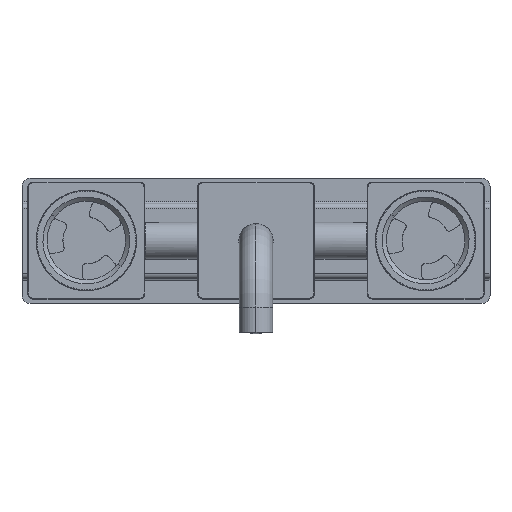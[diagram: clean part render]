
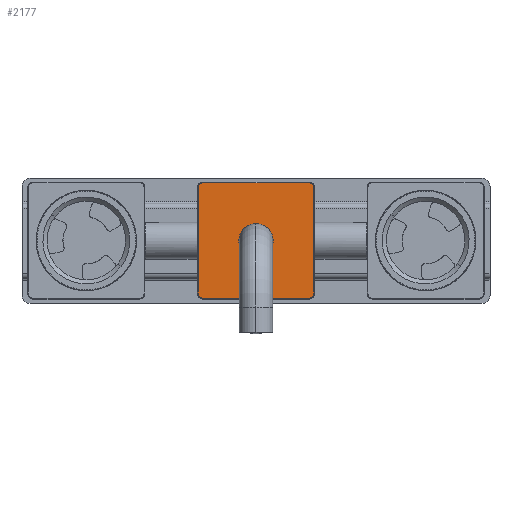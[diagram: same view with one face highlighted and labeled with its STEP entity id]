
A CAD part, top view. The second image highlights one B-rep face of the part: STEP entity #2177.
In plain terms, the highlighted planar face has unit normal (0, 0, 1) as drawn and (0, 0, -1) by its records, which use the part's own axes.
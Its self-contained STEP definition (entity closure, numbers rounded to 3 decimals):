
#56 = ORIENTED_EDGE ( 'NONE', *, *, #53203, .F. ) ;
#113 = ORIENTED_EDGE ( 'NONE', *, *, #48539, .F. ) ;
#1389 = CARTESIAN_POINT ( 'NONE',  ( -32., -34.5, 0. ) ) ;
#2177 = ADVANCED_FACE ( 'NONE', ( #67079, #29402 ), #31625, .F. ) ;
#2983 = CARTESIAN_POINT ( 'NONE',  ( 35., 34.5, 0. ) ) ;
#3409 = DIRECTION ( 'NONE',  ( 0., -1., 0. ) ) ;
#3677 = CIRCLE ( 'NONE', #56608, 2.5 ) ;
#4553 = CARTESIAN_POINT ( 'NONE',  ( -34.5, 32., 0. ) ) ;
#6207 = EDGE_CURVE ( 'NONE', #53906, #10385, #59715, .T. ) ;
#7679 = LINE ( 'NONE', #72462, #74887 ) ;
#9349 = DIRECTION ( 'NONE',  ( 0., 0., 1. ) ) ;
#9515 = LINE ( 'NONE', #2983, #50445 ) ;
#10385 = VERTEX_POINT ( 'NONE', #75903 ) ;
#10502 = CARTESIAN_POINT ( 'NONE',  ( 0., 0., 0. ) ) ;
#14562 = DIRECTION ( 'NONE',  ( 1., 0., 0. ) ) ;
#15958 = EDGE_CURVE ( 'NONE', #24620, #59131, #7679, .T. ) ;
#16907 = DIRECTION ( 'NONE',  ( 0., 0., 1. ) ) ;
#18904 = VERTEX_POINT ( 'NONE', #24492 ) ;
#19437 = ORIENTED_EDGE ( 'NONE', *, *, #54817, .T. ) ;
#21718 = DIRECTION ( 'NONE',  ( 1., 0., 0. ) ) ;
#23020 = EDGE_CURVE ( 'NONE', #10385, #53906, #43764, .T. ) ;
#24492 = CARTESIAN_POINT ( 'NONE',  ( -32., 34.5, 0. ) ) ;
#24620 = VERTEX_POINT ( 'NONE', #55282 ) ;
#25462 = DIRECTION ( 'NONE',  ( 1., 0., 0. ) ) ;
#28465 = DIRECTION ( 'NONE',  ( 1., 0., 0. ) ) ;
#28508 = CIRCLE ( 'NONE', #38367, 2.5 ) ;
#29402 = FACE_OUTER_BOUND ( 'NONE', #42685, .T. ) ;
#30589 = EDGE_LOOP ( 'NONE', ( #61669, #50886 ) ) ;
#30731 = AXIS2_PLACEMENT_3D ( 'NONE', #58898, #40419, #28465 ) ;
#31625 = PLANE ( 'NONE',  #36355 ) ;
#31766 = CARTESIAN_POINT ( 'NONE',  ( 32., -34.5, 0. ) ) ;
#31828 = ORIENTED_EDGE ( 'NONE', *, *, #15958, .T. ) ;
#32003 = CIRCLE ( 'NONE', #30731, 2.5 ) ;
#32657 = CARTESIAN_POINT ( 'NONE',  ( -34.5, -32., 0. ) ) ;
#33178 = EDGE_CURVE ( 'NONE', #40802, #71414, #37828, .T. ) ;
#33210 = AXIS2_PLACEMENT_3D ( 'NONE', #57740, #16907, #75129 ) ;
#33815 = VERTEX_POINT ( 'NONE', #31766 ) ;
#34236 = VECTOR ( 'NONE', #66009, 1000. ) ;
#34488 = DIRECTION ( 'NONE',  ( 0., 0., 1. ) ) ;
#36355 = AXIS2_PLACEMENT_3D ( 'NONE', #43569, #52902, #25462 ) ;
#36371 = VERTEX_POINT ( 'NONE', #57639 ) ;
#37828 = LINE ( 'NONE', #61364, #34236 ) ;
#37886 = DIRECTION ( 'NONE',  ( 1., 0., 0. ) ) ;
#38367 = AXIS2_PLACEMENT_3D ( 'NONE', #45571, #75253, #74885 ) ;
#39003 = EDGE_CURVE ( 'NONE', #24620, #36371, #32003, .T. ) ;
#39319 = VECTOR ( 'NONE', #60698, 1000. ) ;
#40271 = DIRECTION ( 'NONE',  ( 1., 0., 0. ) ) ;
#40419 = DIRECTION ( 'NONE',  ( 0., 0., 1. ) ) ;
#40802 = VERTEX_POINT ( 'NONE', #32657 ) ;
#42313 = VERTEX_POINT ( 'NONE', #1389 ) ;
#42685 = EDGE_LOOP ( 'NONE', ( #113, #52955, #48523, #66116, #56, #19437, #54744, #31828 ) ) ;
#43569 = CARTESIAN_POINT ( 'NONE',  ( 0., 0., 0. ) ) ;
#43764 = CIRCLE ( 'NONE', #55999, 10.25 ) ;
#45571 = CARTESIAN_POINT ( 'NONE',  ( -32., -32., 0. ) ) ;
#47761 = CARTESIAN_POINT ( 'NONE',  ( 10.25, 0., 0. ) ) ;
#48523 = ORIENTED_EDGE ( 'NONE', *, *, #74654, .F. ) ;
#48539 = EDGE_CURVE ( 'NONE', #33815, #59131, #71412, .T. ) ;
#50445 = VECTOR ( 'NONE', #14562, 1000. ) ;
#50886 = ORIENTED_EDGE ( 'NONE', *, *, #23020, .T. ) ;
#52902 = DIRECTION ( 'NONE',  ( 0., 0., 1. ) ) ;
#52955 = ORIENTED_EDGE ( 'NONE', *, *, #69763, .T. ) ;
#53203 = EDGE_CURVE ( 'NONE', #18904, #71414, #3677, .T. ) ;
#53906 = VERTEX_POINT ( 'NONE', #47761 ) ;
#54744 = ORIENTED_EDGE ( 'NONE', *, *, #39003, .F. ) ;
#54817 = EDGE_CURVE ( 'NONE', #18904, #36371, #9515, .T. ) ;
#55282 = CARTESIAN_POINT ( 'NONE',  ( 34.5, 32., 0. ) ) ;
#55999 = AXIS2_PLACEMENT_3D ( 'NONE', #10502, #68377, #21718 ) ;
#56608 = AXIS2_PLACEMENT_3D ( 'NONE', #62167, #9349, #37886 ) ;
#57639 = CARTESIAN_POINT ( 'NONE',  ( 32., 34.5, 0. ) ) ;
#57740 = CARTESIAN_POINT ( 'NONE',  ( 32., -32., 0. ) ) ;
#58898 = CARTESIAN_POINT ( 'NONE',  ( 32., 32., 0. ) ) ;
#59131 = VERTEX_POINT ( 'NONE', #73337 ) ;
#59715 = CIRCLE ( 'NONE', #74488, 10.25 ) ;
#60698 = DIRECTION ( 'NONE',  ( -1., 0., 0. ) ) ;
#61364 = CARTESIAN_POINT ( 'NONE',  ( -34.5, 35., 0. ) ) ;
#61669 = ORIENTED_EDGE ( 'NONE', *, *, #6207, .T. ) ;
#62167 = CARTESIAN_POINT ( 'NONE',  ( -32., 32., 0. ) ) ;
#66009 = DIRECTION ( 'NONE',  ( 0., 1., 0. ) ) ;
#66116 = ORIENTED_EDGE ( 'NONE', *, *, #33178, .T. ) ;
#66480 = LINE ( 'NONE', #71892, #39319 ) ;
#67079 = FACE_BOUND ( 'NONE', #30589, .T. ) ;
#68377 = DIRECTION ( 'NONE',  ( 0., 0., 1. ) ) ;
#69763 = EDGE_CURVE ( 'NONE', #33815, #42313, #66480, .T. ) ;
#71408 = CARTESIAN_POINT ( 'NONE',  ( 0., 0., 0. ) ) ;
#71412 = CIRCLE ( 'NONE', #33210, 2.5 ) ;
#71414 = VERTEX_POINT ( 'NONE', #4553 ) ;
#71892 = CARTESIAN_POINT ( 'NONE',  ( -35., -34.5, 0. ) ) ;
#72462 = CARTESIAN_POINT ( 'NONE',  ( 34.5, -35., 0. ) ) ;
#73337 = CARTESIAN_POINT ( 'NONE',  ( 34.5, -32., 0. ) ) ;
#74488 = AXIS2_PLACEMENT_3D ( 'NONE', #71408, #34488, #40271 ) ;
#74654 = EDGE_CURVE ( 'NONE', #40802, #42313, #28508, .T. ) ;
#74885 = DIRECTION ( 'NONE',  ( 1., 0., 0. ) ) ;
#74887 = VECTOR ( 'NONE', #3409, 1000. ) ;
#75129 = DIRECTION ( 'NONE',  ( 1., 0., 0. ) ) ;
#75253 = DIRECTION ( 'NONE',  ( 0., 0., 1. ) ) ;
#75903 = CARTESIAN_POINT ( 'NONE',  ( -10.25, 0., 0. ) ) ;
